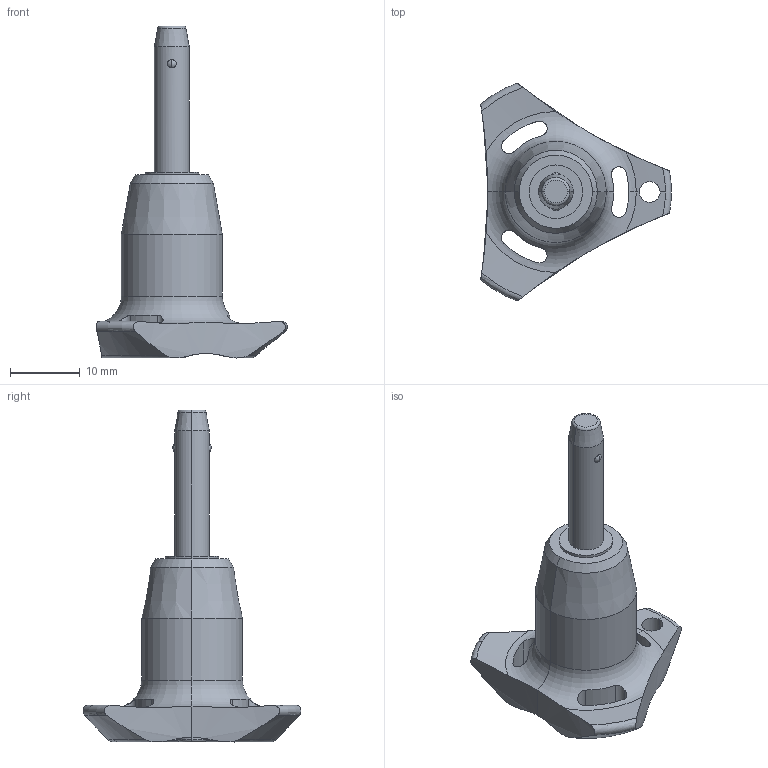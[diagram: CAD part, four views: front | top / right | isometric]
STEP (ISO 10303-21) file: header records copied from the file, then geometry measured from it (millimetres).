
FILE_DESCRIPTION (( 'STEP AP203' ), '1' );
FILE_NAME ('QR1704.M05-015-S.step', '2025-11-12T09:06:46', ( '' ), ( '' ), 'SwSTEP 2.0', 'SolidWorks 2019', '' );
FILE_SCHEMA (( 'CONFIG_CONTROL_DESIGN' ));
Length unit declared in the file: millimetre
Products named in the file (1): QR1704.M05-015-S
Bounding box: 27.4 x 31.31 x 47.7 mm (x, y, z)
Volume: 5162.5 mm3; surface area: 2743.9 mm2
Topology: 1 solids, 1 shells, 66 faces, 181 edges, 115 vertices
Faces by surface type: cylinder 30, cone 14, torus 12, sphere 6, plane 4
Entity records: 2693 total; most frequent: CARTESIAN_POINT 981, ORIENTED_EDGE 362, DIRECTION 332, EDGE_CURVE 181, AXIS2_PLACEMENT_3D 148, VERTEX_POINT 115, CIRCLE 81, EDGE_LOOP 72
